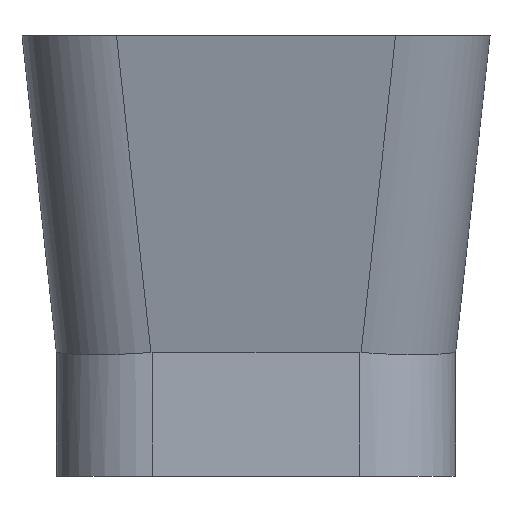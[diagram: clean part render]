
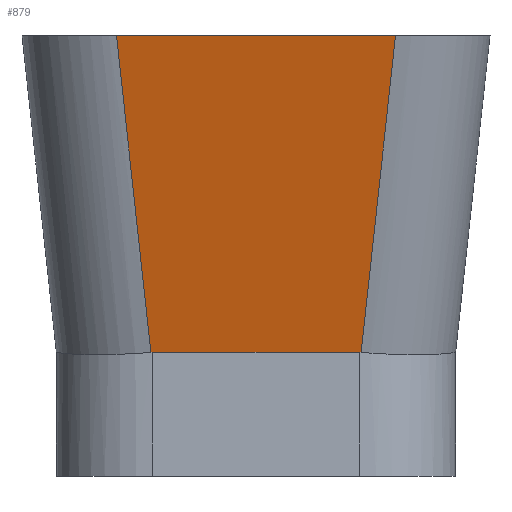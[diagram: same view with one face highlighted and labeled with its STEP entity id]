
A CAD part, left-side view. The second image highlights one B-rep face of the part: STEP entity #879.
In plain terms, the highlighted planar face has unit normal (-0.973, 0, -0.233).
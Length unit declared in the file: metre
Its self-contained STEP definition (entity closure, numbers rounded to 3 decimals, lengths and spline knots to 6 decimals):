
#18=PLANE('',#947);
#51=B_SPLINE_CURVE_WITH_KNOTS('',3,(#1323,#1324,#1325,#1326),
 .UNSPECIFIED.,.F.,.F.,(4,4),(0.,1.106162),.UNSPECIFIED.);
#56=B_SPLINE_CURVE_WITH_KNOTS('',3,(#1410,#1411,#1412,#1413),
 .UNSPECIFIED.,.F.,.F.,(4,4),(358.893838,360.),.UNSPECIFIED.);
#76=LINE('',#1355,#170);
#79=LINE('',#1361,#173);
#95=LINE('',#1423,#189);
#96=LINE('',#1429,#190);
#170=VECTOR('',#1037,1.);
#173=VECTOR('',#1042,1.);
#189=VECTOR('',#1076,1.);
#190=VECTOR('',#1079,1.);
#335=ORIENTED_EDGE('',*,*,#521,.T.);
#336=ORIENTED_EDGE('',*,*,#515,.F.);
#337=ORIENTED_EDGE('',*,*,#524,.T.);
#338=ORIENTED_EDGE('',*,*,#546,.F.);
#339=ORIENTED_EDGE('',*,*,#548,.F.);
#340=ORIENTED_EDGE('',*,*,#550,.T.);
#515=EDGE_CURVE('',#641,#642,#51,.F.);
#521=EDGE_CURVE('',#644,#642,#76,.T.);
#524=EDGE_CURVE('',#641,#648,#79,.F.);
#546=EDGE_CURVE('',#665,#648,#56,.F.);
#548=EDGE_CURVE('',#666,#665,#95,.F.);
#550=EDGE_CURVE('',#666,#644,#96,.T.);
#641=VERTEX_POINT('',#1322);
#642=VERTEX_POINT('',#1327);
#644=VERTEX_POINT('',#1347);
#648=VERTEX_POINT('',#1360);
#665=VERTEX_POINT('',#1409);
#666=VERTEX_POINT('',#1422);
#747=EDGE_LOOP('',(#335,#336,#337,#338,#339,#340));
#805=FACE_BOUND('',#747,.T.);
#879=ADVANCED_FACE('',(#805),#18,.F.);
#947=AXIS2_PLACEMENT_3D('',#1428,#1077,#1078);
#1037=DIRECTION('',(0.231,-0.105,-0.967));
#1042=DIRECTION('',(0.,1.,0.));
#1076=DIRECTION('',(-0.231,-0.105,0.967));
#1077=DIRECTION('',(0.973,0.,0.233));
#1078=DIRECTION('',(0.233,0.,-0.973));
#1079=DIRECTION('',(0.,1.,0.));
#1322=CARTESIAN_POINT('',(0.,0.022,0.009));
#1323=CARTESIAN_POINT('',(0.000001,0.022135,0.008995));
#1324=CARTESIAN_POINT('',(0.,0.02209,0.008998));
#1325=CARTESIAN_POINT('',(0.,0.022045,0.009));
#1326=CARTESIAN_POINT('',(0.,0.022,0.009));
#1327=CARTESIAN_POINT('',(0.000001,0.022135,0.008995));
#1347=CARTESIAN_POINT('',(-0.0055,0.024636,0.032));
#1355=CARTESIAN_POINT('',(-0.0055,0.024636,0.032));
#1360=CARTESIAN_POINT('',(0.,0.007,0.009));
#1361=CARTESIAN_POINT('',(0.,0.,0.009));
#1409=CARTESIAN_POINT('',(0.000001,0.006865,0.008995));
#1410=CARTESIAN_POINT('',(0.,0.007,0.009));
#1411=CARTESIAN_POINT('',(0.,0.006955,0.009));
#1412=CARTESIAN_POINT('',(0.,0.00691,0.008998));
#1413=CARTESIAN_POINT('',(0.000001,0.006865,0.008995));
#1422=CARTESIAN_POINT('',(-0.0055,0.004364,0.032));
#1423=CARTESIAN_POINT('',(0.000983,0.007311,0.004888));
#1428=CARTESIAN_POINT('',(0.,0.,0.009));
#1429=CARTESIAN_POINT('',(-0.0055,0.,0.032));
